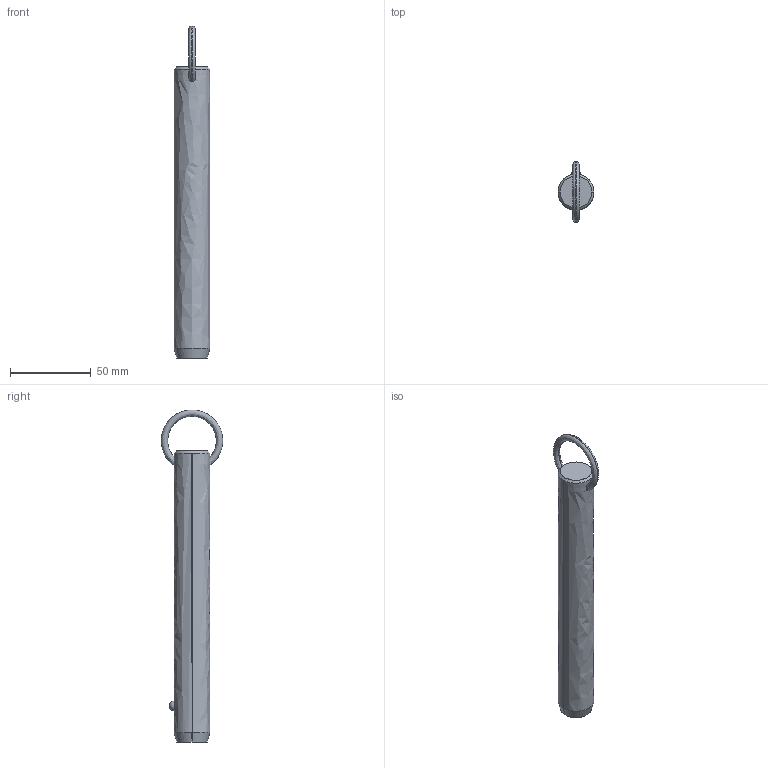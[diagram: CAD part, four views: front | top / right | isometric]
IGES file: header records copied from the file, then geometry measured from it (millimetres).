
Start section: SolidWorks IGES file using analytic representation for surfaces
Global section: file name: C:\Users\liam_\OneDrive\Documents\WORK\Work for WixRoyd\Job Files\J-00019 - Matt Davis CAD Checking\04. CAD Drawings\automotion20190605\P1250.2_v2\P1250.2_v2_20190729_IGES\P1250.087-560.igs; native system: SolidWorks 2017; preprocessor: SolidWorks 2017; author: liam_; date: 190730.001612; units: millimetre
Bounding box: 22.2 x 38.1 x 205.68 mm (x, y, z)
Surface area: 14218.5 mm2 (no closed solid volume)
Topology: 0 solids, 0 shells, 12 faces, 302 edges, 300 vertices
Faces by surface type: revolution 8, bspline 4
